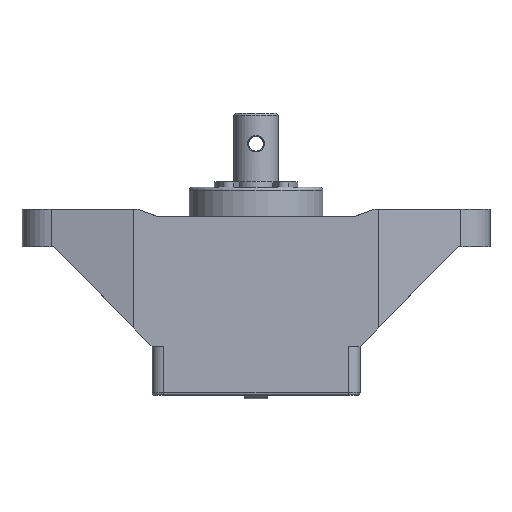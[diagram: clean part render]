
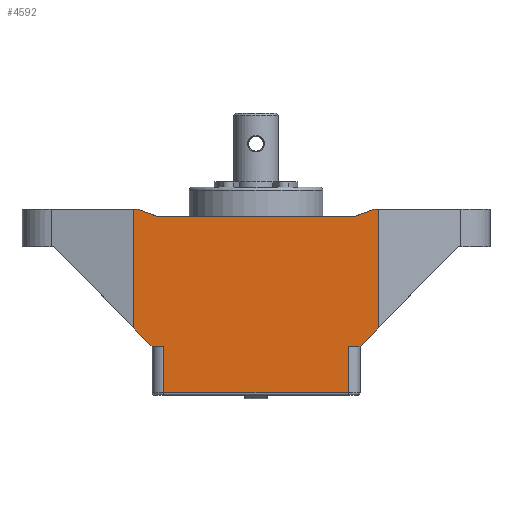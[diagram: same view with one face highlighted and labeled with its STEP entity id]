
A CAD part, front view. The second image highlights one B-rep face of the part: STEP entity #4592.
In plain terms, the highlighted planar face has unit normal (0, -1, 0).
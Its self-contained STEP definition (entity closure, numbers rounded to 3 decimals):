
#52 = LINE ( 'NONE', #17837, #15520 ) ;
#137 = DIRECTION ( 'NONE',  ( 0., 0., -1. ) ) ;
#318 = CARTESIAN_POINT ( 'NONE',  ( -14., -13., -28. ) ) ;
#501 = ORIENTED_EDGE ( 'NONE', *, *, #4648, .F. ) ;
#787 = CARTESIAN_POINT ( 'NONE',  ( -12.4, -13., -27.7 ) ) ;
#903 = DIRECTION ( 'NONE',  ( 0., 0., -1. ) ) ;
#980 = VERTEX_POINT ( 'NONE', #4789 ) ;
#1115 = ORIENTED_EDGE ( 'NONE', *, *, #13433, .F. ) ;
#1238 = EDGE_CURVE ( 'NONE', #2082, #9241, #4418, .T. ) ;
#1317 = ORIENTED_EDGE ( 'NONE', *, *, #13627, .F. ) ;
#1683 = PLANE ( 'NONE',  #11474 ) ;
#1823 = DIRECTION ( 'NONE',  ( 0.94, 0., -0.342 ) ) ;
#2082 = VERTEX_POINT ( 'NONE', #787 ) ;
#2182 = LINE ( 'NONE', #4904, #6000 ) ;
#2259 = EDGE_CURVE ( 'NONE', #10512, #2082, #4149, .T. ) ;
#2772 = DIRECTION ( 'NONE',  ( 0., -1., 0. ) ) ;
#2837 = VECTOR ( 'NONE', #16688, 1000. ) ;
#2854 = DIRECTION ( 'NONE',  ( 0., 0., 1. ) ) ;
#2960 = CARTESIAN_POINT ( 'NONE',  ( 12.4, -13., -27.7 ) ) ;
#3247 = VERTEX_POINT ( 'NONE', #13968 ) ;
#3352 = EDGE_CURVE ( 'NONE', #15565, #9921, #2182, .T. ) ;
#3935 = ORIENTED_EDGE ( 'NONE', *, *, #15218, .F. ) ;
#3972 = DIRECTION ( 'NONE',  ( 0., 0., -1. ) ) ;
#4149 = LINE ( 'NONE', #11028, #9394 ) ;
#4232 = LINE ( 'NONE', #11384, #5618 ) ;
#4418 = LINE ( 'NONE', #2960, #15741 ) ;
#4592 = ADVANCED_FACE ( 'NONE', ( #15377 ), #1683, .T. ) ;
#4648 = EDGE_CURVE ( 'NONE', #980, #3247, #8467, .T. ) ;
#4660 = CARTESIAN_POINT ( 'NONE',  ( 13.136, -13., -4. ) ) ;
#4789 = CARTESIAN_POINT ( 'NONE',  ( -16.5, -13., -18.943 ) ) ;
#4817 = VECTOR ( 'NONE', #9574, 1000. ) ;
#4904 = CARTESIAN_POINT ( 'NONE',  ( -15.883, -13., -3. ) ) ;
#5196 = CARTESIAN_POINT ( 'NONE',  ( -15.883, -13., -3. ) ) ;
#5269 = VERTEX_POINT ( 'NONE', #6715 ) ;
#5330 = CARTESIAN_POINT ( 'NONE',  ( 16.5, -13., -18.943 ) ) ;
#5500 = DIRECTION ( 'NONE',  ( 1., 0., 0. ) ) ;
#5608 = EDGE_CURVE ( 'NONE', #3247, #15565, #15111, .T. ) ;
#5618 = VECTOR ( 'NONE', #6852, 1000. ) ;
#5780 = EDGE_CURVE ( 'NONE', #10512, #5801, #4232, .T. ) ;
#5801 = VERTEX_POINT ( 'NONE', #17277 ) ;
#6000 = VECTOR ( 'NONE', #1823, 1000. ) ;
#6047 = EDGE_CURVE ( 'NONE', #11568, #10974, #12635, .T. ) ;
#6107 = LINE ( 'NONE', #8904, #15722 ) ;
#6129 = CARTESIAN_POINT ( 'NONE',  ( 12.4, -13., -21.5 ) ) ;
#6161 = VERTEX_POINT ( 'NONE', #4660 ) ;
#6162 = CARTESIAN_POINT ( 'NONE',  ( -14., -13., -3. ) ) ;
#6252 = ORIENTED_EDGE ( 'NONE', *, *, #3352, .F. ) ;
#6580 = LINE ( 'NONE', #12110, #6931 ) ;
#6709 = CARTESIAN_POINT ( 'NONE',  ( 12.4, -13., -19.237 ) ) ;
#6715 = CARTESIAN_POINT ( 'NONE',  ( 14., -13., -21.5 ) ) ;
#6852 = DIRECTION ( 'NONE',  ( -1., 0., 0. ) ) ;
#6931 = VECTOR ( 'NONE', #17647, 1000. ) ;
#7339 = EDGE_CURVE ( 'NONE', #5269, #17050, #6107, .T. ) ;
#7661 = ORIENTED_EDGE ( 'NONE', *, *, #15656, .F. ) ;
#8241 = ORIENTED_EDGE ( 'NONE', *, *, #7339, .F. ) ;
#8375 = VECTOR ( 'NONE', #17894, 1000. ) ;
#8441 = ORIENTED_EDGE ( 'NONE', *, *, #5608, .F. ) ;
#8467 = LINE ( 'NONE', #9749, #4817 ) ;
#8904 = CARTESIAN_POINT ( 'NONE',  ( 14., -13., -21.5 ) ) ;
#9022 = ORIENTED_EDGE ( 'NONE', *, *, #5780, .F. ) ;
#9241 = VERTEX_POINT ( 'NONE', #11010 ) ;
#9363 = VECTOR ( 'NONE', #2854, 1000. ) ;
#9394 = VECTOR ( 'NONE', #3972, 1000. ) ;
#9489 = ORIENTED_EDGE ( 'NONE', *, *, #2259, .T. ) ;
#9495 = VECTOR ( 'NONE', #903, 1000. ) ;
#9574 = DIRECTION ( 'NONE',  ( 0., 0., 1. ) ) ;
#9749 = CARTESIAN_POINT ( 'NONE',  ( -16.5, -13., -8. ) ) ;
#9836 = EDGE_CURVE ( 'NONE', #9921, #6161, #52, .T. ) ;
#9921 = VERTEX_POINT ( 'NONE', #16484 ) ;
#10120 = ORIENTED_EDGE ( 'NONE', *, *, #11645, .F. ) ;
#10512 = VERTEX_POINT ( 'NONE', #16072 ) ;
#10974 = VERTEX_POINT ( 'NONE', #17063 ) ;
#11010 = CARTESIAN_POINT ( 'NONE',  ( 12.4, -13., -27.7 ) ) ;
#11028 = CARTESIAN_POINT ( 'NONE',  ( -12.4, -13., -19.237 ) ) ;
#11270 = CARTESIAN_POINT ( 'NONE',  ( -14., -13., -21.5 ) ) ;
#11384 = CARTESIAN_POINT ( 'NONE',  ( -14., -13., -21.5 ) ) ;
#11417 = CARTESIAN_POINT ( 'NONE',  ( 14., -13., -3. ) ) ;
#11474 = AXIS2_PLACEMENT_3D ( 'NONE', #318, #2772, #137 ) ;
#11568 = VERTEX_POINT ( 'NONE', #5330 ) ;
#11624 = ORIENTED_EDGE ( 'NONE', *, *, #1238, .T. ) ;
#11645 = EDGE_CURVE ( 'NONE', #11568, #5269, #16666, .T. ) ;
#11742 = VECTOR ( 'NONE', #15863, 1000. ) ;
#11820 = CARTESIAN_POINT ( 'NONE',  ( 15.883, -13., -3. ) ) ;
#12110 = CARTESIAN_POINT ( 'NONE',  ( 15.883, -13., -3. ) ) ;
#12450 = LINE ( 'NONE', #11270, #8375 ) ;
#12475 = DIRECTION ( 'NONE',  ( 1., 0., 0. ) ) ;
#12590 = ORIENTED_EDGE ( 'NONE', *, *, #9836, .F. ) ;
#12635 = LINE ( 'NONE', #16632, #9363 ) ;
#12702 = VERTEX_POINT ( 'NONE', #11820 ) ;
#13382 = ORIENTED_EDGE ( 'NONE', *, *, #6047, .T. ) ;
#13433 = EDGE_CURVE ( 'NONE', #17050, #9241, #13597, .T. ) ;
#13597 = LINE ( 'NONE', #6709, #9495 ) ;
#13627 = EDGE_CURVE ( 'NONE', #12702, #10974, #16869, .T. ) ;
#13968 = CARTESIAN_POINT ( 'NONE',  ( -16.5, -13., -3. ) ) ;
#14446 = DIRECTION ( 'NONE',  ( -1., 0., 0. ) ) ;
#15111 = LINE ( 'NONE', #6162, #11742 ) ;
#15218 = EDGE_CURVE ( 'NONE', #6161, #12702, #6580, .T. ) ;
#15377 = FACE_OUTER_BOUND ( 'NONE', #16001, .T. ) ;
#15393 = DIRECTION ( 'NONE',  ( -0.699, 0., -0.715 ) ) ;
#15520 = VECTOR ( 'NONE', #5500, 1000. ) ;
#15565 = VERTEX_POINT ( 'NONE', #5196 ) ;
#15656 = EDGE_CURVE ( 'NONE', #5801, #980, #12450, .T. ) ;
#15722 = VECTOR ( 'NONE', #14446, 1000. ) ;
#15741 = VECTOR ( 'NONE', #12475, 1000. ) ;
#15863 = DIRECTION ( 'NONE',  ( 1., 0., 0. ) ) ;
#16001 = EDGE_LOOP ( 'NONE', ( #9489, #11624, #1115, #8241, #10120, #13382, #1317, #3935, #12590, #6252, #8441, #501, #7661, #9022 ) ) ;
#16072 = CARTESIAN_POINT ( 'NONE',  ( -12.4, -13., -21.5 ) ) ;
#16394 = CARTESIAN_POINT ( 'NONE',  ( 14., -13., -21.5 ) ) ;
#16484 = CARTESIAN_POINT ( 'NONE',  ( -13.136, -13., -4. ) ) ;
#16632 = CARTESIAN_POINT ( 'NONE',  ( 16.5, -13., -8. ) ) ;
#16666 = LINE ( 'NONE', #16394, #17005 ) ;
#16688 = DIRECTION ( 'NONE',  ( 1., 0., 0. ) ) ;
#16869 = LINE ( 'NONE', #11417, #2837 ) ;
#17005 = VECTOR ( 'NONE', #15393, 1000. ) ;
#17050 = VERTEX_POINT ( 'NONE', #6129 ) ;
#17063 = CARTESIAN_POINT ( 'NONE',  ( 16.5, -13., -3. ) ) ;
#17277 = CARTESIAN_POINT ( 'NONE',  ( -14., -13., -21.5 ) ) ;
#17647 = DIRECTION ( 'NONE',  ( 0.94, 0., 0.342 ) ) ;
#17837 = CARTESIAN_POINT ( 'NONE',  ( -8.9, -13., -4. ) ) ;
#17894 = DIRECTION ( 'NONE',  ( -0.699, 0., 0.715 ) ) ;
